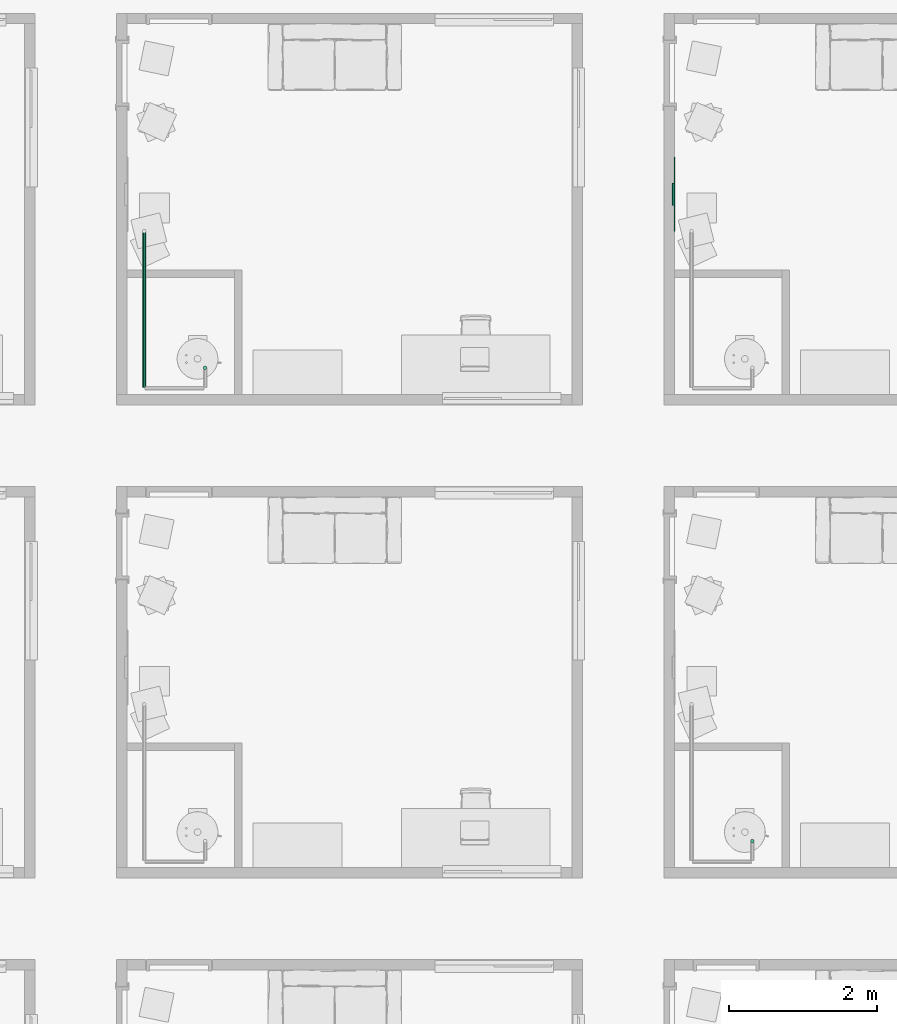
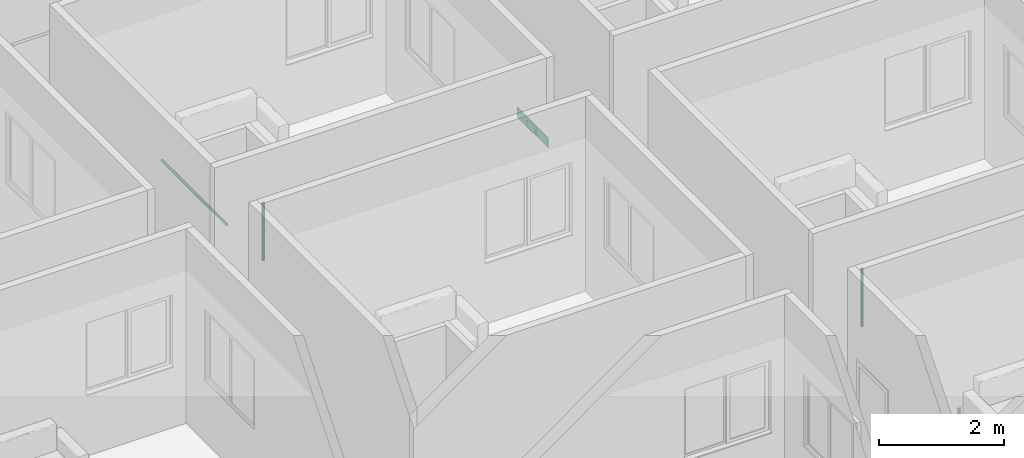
# One storey, part 31 of 72: 3 pipe segments, 1 air terminal.
"""IFC4 building model written with IfcOpenShell, lengths in centimetres."""

import ifcopenshell
import ifcopenshell.guid

model = None  # the IFC model being written
_history = None  # IfcOwnerHistory: only IFC2X3 demands one
_inside = {}  # id of a spatial element -> (the spatial element, [elements in it])
_under = {}  # id of a project, library or spatial element -> (it, [spatial elements below it])
_declared = {}  # id of a project -> (the project, [libraries it declares])
_typed = {}  # id of a type object -> (the type object, [elements of that type])
_made_of = {}  # id of a material, layer set ... -> (it, [elements and type objects made of it])


def new_model(schema):
    """Start an empty IFC model of exactly this schema.

    Asked for "IFC4X3", IfcOpenShell would pick the latest addendum, in which some entities
    have other attributes; the version numbers below select the first issue.
    IFC2X3 requires an IfcOwnerHistory on every rooted entity: one is made here for all.
    """
    global model, _history
    if schema == "IFC4X3":
        model = ifcopenshell.file(schema_version=(4, 3, 0, 0))
    else:
        model = ifcopenshell.file(schema=schema)
    _inside.clear()
    _under.clear()
    _declared.clear()
    _typed.clear()
    _made_of.clear()
    _history = None
    if model.schema == "IFC2X3":
        org = make("IfcOrganization", Name="unknown")
        user = make(
            "IfcPersonAndOrganization",
            ThePerson=make("IfcPerson", FamilyName="unknown"),
            TheOrganization=org,
        )
        app = make(
            "IfcApplication",
            ApplicationDeveloper=org,
            Version="unknown",
            ApplicationFullName="unknown",
            ApplicationIdentifier="unknown",
        )
        _history = make(
            "IfcOwnerHistory",
            OwningUser=user,
            OwningApplication=app,
            ChangeAction="ADDED",
            CreationDate=0,
        )
    return model


def make(cls, **values):
    """One entity of the class cls with the attributes given. An attribute that is None is left unset."""
    return model.create_entity(
        cls, **{name: value for name, value in values.items() if value is not None}
    )


def entity(cls, *values):
    """Any entity or typed value of the class cls, its attributes in the order of the schema. None: left unset."""
    e = model.create_entity(cls)
    for i, value in enumerate(values):
        if value is not None:
            e[i] = value
    return e


def rooted(cls, **values):
    """An entity with a GlobalId (a new one), such as an element, a storey or a relation."""
    return make(cls, GlobalId=ifcopenshell.guid.new(), OwnerHistory=_history, **values)


def si_unit(unit_type, name, prefix=None):
    """IfcSIUnit, for example si_unit("LENGTHUNIT", "METRE", prefix="MILLI")."""
    return make("IfcSIUnit", UnitType=unit_type, Prefix=prefix, Name=name)


def converted_unit(unit_type, name, factor, base, dimensions=None, offset=None):
    """IfcConversionBasedUnit, such as the inch: factor (a typed value) times the base unit."""
    return make(
        "IfcConversionBasedUnit"
        if offset is None
        else "IfcConversionBasedUnitWithOffset",
        ConversionOffset=offset,
        Dimensions=None
        if dimensions is None
        else entity("IfcDimensionalExponents", *dimensions),
        UnitType=unit_type,
        Name=name,
        ConversionFactor=make(
            "IfcMeasureWithUnit", ValueComponent=factor, UnitComponent=base
        ),
    )


def derived_unit(unit_type, elements):
    """IfcDerivedUnit: a product of units, each with its exponent."""
    return make(
        "IfcDerivedUnit",
        Elements=[
            make("IfcDerivedUnitElement", Unit=unit, Exponent=power)
            for unit, power in elements
        ],
        UnitType=unit_type,
    )


def assignment(units):
    """IfcUnitAssignment: the units of a project."""
    return None if units is None else make("IfcUnitAssignment", Units=units)


def point(xyz):
    """IfcCartesianPoint."""
    return None if xyz is None else make("IfcCartesianPoint", Coordinates=xyz)


def direction(xyz):
    """IfcDirection."""
    return None if xyz is None else make("IfcDirection", DirectionRatios=xyz)


def frame(location, z_axis=None, x_axis=None):
    """IfcAxis2Placement3D, a coordinate frame: its origin and axes. An axis left out is left unset."""
    return make(
        "IfcAxis2Placement3D",
        Location=point(location),
        Axis=direction(z_axis),
        RefDirection=direction(x_axis),
    )


def origin():
    """The frame at (0, 0, 0) with its axes left unset."""
    return frame((0.0, 0.0, 0.0))


def place(relative_to, where):
    """IfcLocalPlacement: puts the frame where relative to a parent placement (None: the world)."""
    return make(
        "IfcLocalPlacement", PlacementRelTo=relative_to, RelativePlacement=where
    )


def context(
    kind, dimensions, precision=None, world=None, true_north=None, identifier=None
):
    """IfcGeometricRepresentationContext, for example the 3D "Model" context."""
    return make(
        "IfcGeometricRepresentationContext",
        ContextIdentifier=identifier,
        ContextType=kind,
        CoordinateSpaceDimension=dimensions,
        Precision=precision,
        WorldCoordinateSystem=world,
        TrueNorth=true_north,
    )


def subcontext(parent, identifier, kind, view, scale=None):
    """IfcGeometricRepresentationSubContext, for example "Body" below "Model"."""
    return make(
        "IfcGeometricRepresentationSubContext",
        ContextIdentifier=identifier,
        ContextType=kind,
        ParentContext=parent,
        TargetScale=scale,
        TargetView=view,
    )


def project(units=None, contexts=None):
    """IfcProject with its units and contexts."""
    return rooted(
        "IfcProject",
        Name="project",
        RepresentationContexts=contexts,
        UnitsInContext=assignment(units),
    )


def spatial(cls, under=None, at=None, **own):
    """A site, building, storey or space (cls), placed at a placement, below another one or the project."""
    s = rooted(cls, ObjectPlacement=at, **own)
    if under is not None:
        _under.setdefault(under.id(), (under, []))[1].append(s)
    return s


def point_list(points):
    """IfcCartesianPointList2D or 3D."""
    cls = (
        "IfcCartesianPointList2D" if len(points[0]) == 2 else "IfcCartesianPointList3D"
    )
    return make(cls, CoordList=points)


def arc(*indices):
    """IfcArcIndex: an arc through three numbered points of an indexed curve."""
    return model.create_entity("IfcArcIndex", indices)


def indexed_curve(points, segments=None, self_intersect=None):
    """IfcIndexedPolyCurve: lines and arcs through numbered points (the first is 1)."""
    return make(
        "IfcIndexedPolyCurve",
        Points=point_list(points),
        Segments=segments,
        SelfIntersect=self_intersect,
    )


def outline(outer, holes=None, kind="AREA"):
    """IfcArbitraryClosedProfileDef: a profile drawn as a closed curve; with holes, ...WithVoids."""
    if holes is None:
        return make("IfcArbitraryClosedProfileDef", ProfileType=kind, OuterCurve=outer)
    return make(
        "IfcArbitraryProfileDefWithVoids",
        ProfileType=kind,
        OuterCurve=outer,
        InnerCurves=holes,
    )


def extrude(swept, where, along, depth):
    """IfcExtrudedAreaSolid: the profile swept, set in the frame where, extruded along a direction by depth."""
    return make(
        "IfcExtrudedAreaSolid",
        SweptArea=swept,
        Position=where,
        ExtrudedDirection=direction(along),
        Depth=depth,
    )


def shape(context_of_items, identifier, shape_type, items):
    """IfcShapeRepresentation: the items that make up one representation, for example the "Body"."""
    return make(
        "IfcShapeRepresentation",
        ContextOfItems=context_of_items,
        RepresentationIdentifier=identifier,
        RepresentationType=shape_type,
        Items=items,
    )


def source(mapping_origin, context_of_items, identifier, shape_type, items):
    """IfcRepresentationMap: a shape defined once, which mapped items show again and again."""
    return make(
        "IfcRepresentationMap",
        MappingOrigin=mapping_origin,
        MappedRepresentation=shape(context_of_items, identifier, shape_type, items),
    )


def transform(
    local_origin,
    x_axis=None,
    y_axis=None,
    z_axis=None,
    scale=None,
    scale2=None,
    scale3=None,
    uniform=True,
):
    """IfcCartesianTransformationOperator3D, or its non-uniform kind. x_axis, y_axis, z_axis: its Axis1, 2, 3."""
    if uniform:
        return make(
            "IfcCartesianTransformationOperator3D",
            Axis1=direction(x_axis),
            Axis2=direction(y_axis),
            LocalOrigin=point(local_origin),
            Scale=scale,
            Axis3=direction(z_axis),
        )
    return make(
        "IfcCartesianTransformationOperator3DnonUniform",
        Axis1=direction(x_axis),
        Axis2=direction(y_axis),
        LocalOrigin=point(local_origin),
        Scale=scale,
        Axis3=direction(z_axis),
        Scale2=scale2,
        Scale3=scale3,
    )


def mapped(mapping_source, mapping_target):
    """IfcMappedItem: shows the shape of a source again, moved by a transform."""
    return make(
        "IfcMappedItem", MappingSource=mapping_source, MappingTarget=mapping_target
    )


def material(Name=None, Category=None):
    """IfcMaterial."""
    return make("IfcMaterial", Name=Name, Category=Category)


def constituent(of_material, Name=None, Category=None, fraction=None):
    """IfcMaterialConstituent: one of the materials an element consists of."""
    return make(
        "IfcMaterialConstituent",
        Name=Name,
        Material=of_material,
        Fraction=fraction,
        Category=Category,
    )


def constituent_set(constituents=None, Name=None):
    """IfcMaterialConstituentSet."""
    return make(
        "IfcMaterialConstituentSet", Name=Name, MaterialConstituents=constituents
    )


def made_of(thing, what):
    """Note that an element or type object is made of a material, layer set ...; save() writes the relation."""
    if what is not None:
        _made_of.setdefault(what.id(), (what, []))[1].append(thing)
    return thing


def type_object(cls, material=None, **own):
    """A type object (cls), such as IfcWallType, which elements share."""
    return made_of(rooted(cls, **own), material)


def type_shapes(of_type, sources):
    """Give a type object the sources (RepresentationMaps) that its elements show as mapped items."""
    of_type.RepresentationMaps = sources


def element(
    cls,
    number,
    at=None,
    inside=None,
    cuts=None,
    type_object=None,
    material=None,
    context=None,
    identifier="Body",
    shape_type=None,
    held_by="IfcProductDefinitionShape",
    body=None,
    shapes=None,
    **own,
):
    """One element of the class cls, such as IfcWall. Its Tag is "e" and its number.

    at: its placement. inside: the storey or other place that contains it. cuts: it is an
    opening in that element (IfcRelVoidsElement). A single representation is given by context,
    identifier, shape_type and body (its items); several are given by shapes. held_by: the class
    of the entity that holds the representations. save() writes the other relations.
    """
    e = rooted(cls, Tag="e%d" % number, ObjectPlacement=at, **own)
    if body is not None:
        shapes = [shape(context, identifier, shape_type, body)]
    if shapes is not None:
        e.Representation = make(held_by, Representations=shapes)
    if inside is not None:
        _inside.setdefault(inside.id(), (inside, []))[1].append(e)
    if cuts is not None:
        rooted(
            "IfcRelVoidsElement", RelatingBuildingElement=cuts, RelatedOpeningElement=e
        )
    if type_object is not None:
        _typed.setdefault(type_object.id(), (type_object, []))[1].append(e)
    return made_of(e, material)


def aggregate(whole, parts):
    """IfcRelAggregates: a whole, such as a stair, and the parts it consists of."""
    return rooted("IfcRelAggregates", RelatingObject=whole, RelatedObjects=parts)


def save(model, path):
    """Write the relations noted so far, then the file.

    IfcRelAggregates (storeys below a building ...), IfcRelContainedInSpatialStructure (elements
    in a storey), IfcRelDefinesByType, IfcRelAssociatesMaterial and IfcRelDeclares: one each for
    every whole, place, type object, material and project.
    """
    for whole, parts in _under.values():
        aggregate(whole, parts)
    for where, things in _inside.values():
        rooted(
            "IfcRelContainedInSpatialStructure",
            RelatedElements=things,
            RelatingStructure=where,
        )
    for kind, things in _typed.values():
        rooted("IfcRelDefinesByType", RelatedObjects=things, RelatingType=kind)
    for what, things in _made_of.values():
        rooted("IfcRelAssociatesMaterial", RelatedObjects=things, RelatingMaterial=what)
    for by, libraries in _declared.values():
        rooted("IfcRelDeclares", RelatingContext=by, RelatedDefinitions=libraries)
    model.write(path)


model = new_model("IFC4")

# Units and contexts
model_context = context("Model", 3, precision=0.001, world=origin(), true_north=direction((6.123233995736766e-17, 1.0)))
body_context = subcontext(model_context, "Body", "Model", "MODEL_VIEW")
ifc_project = project(units=[si_unit("LENGTHUNIT", "METRE", prefix="CENTI"), si_unit("AREAUNIT", "SQUARE_METRE"), si_unit("VOLUMEUNIT", "CUBIC_METRE"), derived_unit("THERMALTRANSMITTANCEUNIT", [(si_unit("MASSUNIT", "GRAM", prefix="KILO"), 1), (si_unit("THERMODYNAMICTEMPERATUREUNIT", "KELVIN"), -1), (si_unit("TIMEUNIT", "SECOND"), -3)]), converted_unit("PLANEANGLEUNIT", "DEGREE", entity("IfcPlaneAngleMeasure", 0.017453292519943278), si_unit("PLANEANGLEUNIT", "RADIAN"), dimensions=[0, 0, 0, 0, 0, 0, 0]), derived_unit("MASSDENSITYUNIT", [(si_unit("MASSUNIT", "GRAM", prefix="KILO"), 1), (si_unit("LENGTHUNIT", "METRE"), -3)]), derived_unit("VAPORPERMEABILITYUNIT", [(si_unit("LENGTHUNIT", "METRE"), -1), (si_unit("TIMEUNIT", "SECOND"), 1)]), derived_unit("USERDEFINED", [(si_unit("MASSUNIT", "GRAM", prefix="KILO"), 1), (si_unit("TIMEUNIT", "SECOND"), -3), (si_unit("LENGTHUNIT", "METRE"), 3), (si_unit("ELECTRICCURRENTUNIT", "AMPERE"), -2)]), derived_unit("SPECIFICHEATCAPACITYUNIT", [(si_unit("THERMODYNAMICTEMPERATUREUNIT", "KELVIN"), -1), (si_unit("LENGTHUNIT", "METRE"), 2), (si_unit("TIMEUNIT", "SECOND"), -2)]), derived_unit("THERMALCONDUCTANCEUNIT", [(si_unit("MASSUNIT", "GRAM", prefix="KILO"), 1), (si_unit("THERMODYNAMICTEMPERATUREUNIT", "KELVIN"), -1), (si_unit("TIMEUNIT", "SECOND"), -3), (si_unit("LENGTHUNIT", "METRE"), 1)]), si_unit("PRESSUREUNIT", "PASCAL"), derived_unit("MODULUSOFELASTICITYUNIT", [(si_unit("MASSUNIT", "GRAM", prefix="KILO"), 1), (si_unit("LENGTHUNIT", "METRE"), -1), (si_unit("TIMEUNIT", "SECOND"), -2)]), derived_unit("THERMALEXPANSIONCOEFFICIENTUNIT", [(si_unit("THERMODYNAMICTEMPERATUREUNIT", "KELVIN"), -1)])], contexts=[model_context])

# Site, building, storey, space
site_placement = place(None, origin())
site = spatial("IfcSite", under=ifc_project, at=site_placement, Name="Default", CompositionType="ELEMENT")
building_placement = place(site_placement, origin())
building = spatial("IfcBuilding", under=site, at=building_placement, Name="IDS Escape Game Building", CompositionType="ELEMENT")
storey_placement = place(building_placement, frame((0.0, 0.0, 800.0)))
storey = spatial("IfcBuildingStorey", under=building, at=storey_placement, Name="02_Second Floor", CompositionType="ELEMENT", Elevation=800.0)
space_placement = place(storey_placement, origin())
space = spatial("IfcSpace", under=storey, at=space_placement, Name="101", CompositionType="ELEMENT", PredefinedType="NOTDEFINED")

# Air terminal
ifc_material_1 = material(Name="TB_LVC_referentievlak_00_gen_BERSnl", Category="BE Default")
ifc_constituent_1 = constituent(ifc_material_1, Name="TB_LVC_referentievlak_00_gen_BERSnl", Category="BE Default", fraction=0.00014157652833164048)
ifc_material_2 = material(Name="ARC_FME.h2_staal_00_gen_BERSnl", Category="h - metaal")
ifc_constituent_2 = constituent(ifc_material_2, Name="ARC_FME.h2_staal_00_gen_BERSnl", Category="h - metaal", fraction=0.9998584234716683)
ifc_constituent_set_1 = constituent_set(constituents=[ifc_constituent_1, ifc_constituent_2])
ifc_constituent_3 = constituent(ifc_material_1, Name="BE Referentievlak", Category="BE Default", fraction=0.00014157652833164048)
ifc_constituent_4 = constituent(ifc_material_2, Name="Terminals", Category="h - metaal", fraction=0.9998584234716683)
ifc_constituent_set_2 = constituent_set(constituents=[ifc_constituent_3, ifc_constituent_4])
air_terminal_type = type_object("IfcAirTerminalType", Name="TB_57_AIR_FB_aanzuigrooster - 1 rechthoekige aansluiting - calculated flow_gen_BERSnl:Air Terminal - Exhaust", PredefinedType="GRILLE", material=ifc_constituent_set_2)
shared_shape = source(origin(), body_context, "Body", "SweptSolid", [
    extrude(outline(indexed_curve([(-0.5, -2.0290176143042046e-15), (6.8507733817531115e-16, -0.5000000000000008), (0.5, 2.0290176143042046e-15), (-5.361679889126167e-16, 0.49999999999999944)], segments=[arc(1, 2, 3), arc(3, 4, 1)], self_intersect=False)), frame((0.0, 0.0, 0.0), z_axis=(1.7453292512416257e-05, 0.0, 1.0), x_axis=(0.0, 1.0, 0.0)), (0.0, 0.0, 1.0), 0.09999999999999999),
    extrude(outline(indexed_curve([(-14.900000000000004, -4.9), (14.900000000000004, -4.9), (14.900000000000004, 4.9), (-14.900000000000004, 4.9), (-14.900000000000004, -4.9)], self_intersect=False)), frame((-4.886921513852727e-05, 0.0, -2.7999999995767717)), (0.0, 0.0, 1.0), 2.7999999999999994),
    extrude(outline(indexed_curve([(-50.0, -10.0), (50.0, -10.0), (50.0, 10.0), (-50.0, 10.0), (-50.0, -10.0)], self_intersect=False)), frame((0.0, 0.0, 0.0), z_axis=(0.0, 0.0, 1.0), x_axis=(-1.0, 0.0, 0.0)), (0.0, 0.0, 1.0), 0.6999999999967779),
])
type_shapes(air_terminal_type, [shared_shape])
air_terminal_placement = place(space_placement, frame((1483.0, 2835.0, 24.0), z_axis=(1.0, 0.0, 0.0), x_axis=(0.0, 1.0, 0.0)))
element("IfcAirTerminal", 1, at=air_terminal_placement, inside=space, type_object=air_terminal_type, material=ifc_constituent_set_1, Name="TB_57_AIR_FB_aanzuigrooster - 1 rechthoekige aansluiting - calculated flow_gen_BERSnl:Air Terminal - Exhaust", ObjectType="TB_57_AIR_FB_aanzuigrooster - 1 rechthoekige aansluiting - calculated flow_gen_BERSnl:Air Terminal - Exhaust", PredefinedType="GRILLE", context=body_context, shape_type="MappedRepresentation", body=[
    mapped(shared_shape, transform((0.0, 0.0, 0.0), scale=1.0)),
])

# Pipe segments
pipe_segment_type = type_object("IfcPipeSegmentType", Name="Pipe Types:Piping Aluminum", PredefinedType="NOTDEFINED")
pipe_segment_1_placement = place(storey_placement, origin())
element("IfcPipeSegment", 2, at=pipe_segment_1_placement, inside=storey, type_object=pipe_segment_type, Name="Pipe Types:Piping Aluminum", ObjectType="Pipe Types:Piping Aluminum", PredefinedType="NOTDEFINED", context=body_context, shape_type="SweptSolid", body=[
    extrude(outline(indexed_curve([(2.412999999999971, 0.0), (1.7062486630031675, 1.7062486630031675), (0.0, 2.412999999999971), (-1.7062486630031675, 1.7062486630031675), (-2.412999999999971, 0.0), (-1.7062486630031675, -1.7062486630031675), (0.0, -2.412999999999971), (1.7062486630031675, -1.7062486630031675)], segments=[arc(1, 2, 3), arc(3, 4, 5), arc(5, 6, 7), arc(7, 8, 1)], self_intersect=False)), frame((1588.1500000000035, 1962.9000000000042, 128.0), z_axis=(0.0, 0.0, 1.0), x_axis=(-1.0, 0.0, 0.0)), (0.0, 0.0, 1.0), 112.90000000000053),
])
pipe_segment_2_placement = place(storey_placement, origin())
element("IfcPipeSegment", 3, at=pipe_segment_2_placement, inside=storey, type_object=pipe_segment_type, Name="Pipe Types:Piping Aluminum", ObjectType="Pipe Types:Piping Aluminum", PredefinedType="NOTDEFINED", context=body_context, shape_type="SweptSolid", body=[
    extrude(outline(indexed_curve([(2.412999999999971, -4.331468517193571e-13), (1.7062486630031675, 1.7062486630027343), (0.0, 2.412999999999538), (-1.7062486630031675, 1.7062486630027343), (-2.412999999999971, -4.331468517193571e-13), (-1.7062486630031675, -1.7062486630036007), (0.0, -2.4130000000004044), (1.7062486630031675, -1.7062486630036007)], segments=[arc(1, 2, 3), arc(3, 4, 5), arc(5, 6, 7), arc(7, 8, 1)], self_intersect=False)), frame((850.1500000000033, 2600.900000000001, 128.0), z_axis=(0.0, 0.0, 1.0), x_axis=(-1.0, 0.0, 0.0)), (0.0, 0.0, 1.0), 112.90000000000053),
])
pipe_segment_3_placement = place(storey_placement, origin())
element("IfcPipeSegment", 4, at=pipe_segment_3_placement, inside=storey, type_object=pipe_segment_type, Name="Pipe Types:Piping Aluminum", ObjectType="Pipe Types:Piping Aluminum", PredefinedType="NOTDEFINED", context=body_context, shape_type="SweptSolid", body=[
    extrude(outline(indexed_curve([(2.412999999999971, 0.0), (1.7062486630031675, 1.7062486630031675), (0.0, 2.412999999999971), (-1.7062486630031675, 1.7062486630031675), (-2.412999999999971, 0.0), (-1.7062486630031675, -1.7062486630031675), (0.0, -2.412999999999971), (1.7062486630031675, -1.7062486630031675)], segments=[arc(1, 2, 3), arc(3, 4, 5), arc(5, 6, 7), arc(7, 8, 1)], self_intersect=False)), frame((768.0467168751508, 2574.3648279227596, 242.0), z_axis=(0.0, 1.0, 0.0), x_axis=(1.0, 0.0, 0.0)), (0.0, 0.0, 1.0), 208.80000000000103),
])

save(model, "model.ifc")
